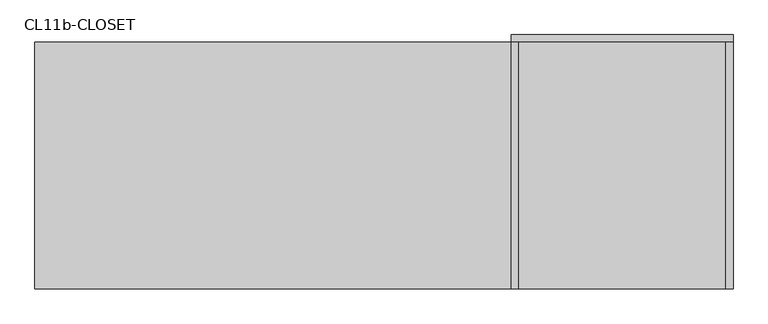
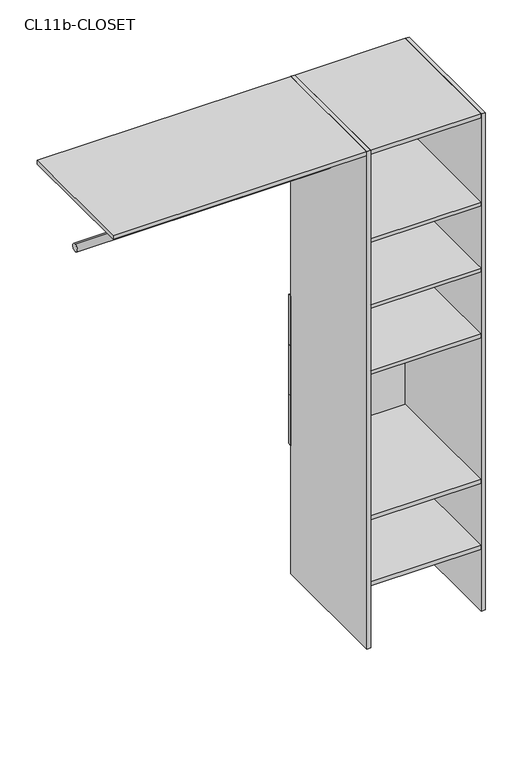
"""IFC4 building model written with IfcOpenShell, lengths in millimetres: furniture geometry, Closet 1estantes-1tubos_sin laterales : CL11b-CLOSET."""

import ifcopenshell
import ifcopenshell.guid

model = None  # the IFC model being written
_history = None  # IfcOwnerHistory: only IFC2X3 demands one
_inside = {}  # id of a spatial element -> (the spatial element, [elements in it])
_under = {}  # id of a project, library or spatial element -> (it, [spatial elements below it])
_declared = {}  # id of a project -> (the project, [libraries it declares])
_typed = {}  # id of a type object -> (the type object, [elements of that type])
_made_of = {}  # id of a material, layer set ... -> (it, [elements and type objects made of it])


def new_model(schema):
    """Start an empty IFC model of exactly this schema.

    Asked for "IFC4X3", IfcOpenShell would pick the latest addendum, in which some entities
    have other attributes; the version numbers below select the first issue.
    IFC2X3 requires an IfcOwnerHistory on every rooted entity: one is made here for all.
    """
    global model, _history
    if schema == "IFC4X3":
        model = ifcopenshell.file(schema_version=(4, 3, 0, 0))
    else:
        model = ifcopenshell.file(schema=schema)
    _inside.clear()
    _under.clear()
    _declared.clear()
    _typed.clear()
    _made_of.clear()
    _history = None
    if model.schema == "IFC2X3":
        org = make("IfcOrganization", Name="unknown")
        user = make(
            "IfcPersonAndOrganization",
            ThePerson=make("IfcPerson", FamilyName="unknown"),
            TheOrganization=org,
        )
        app = make(
            "IfcApplication",
            ApplicationDeveloper=org,
            Version="unknown",
            ApplicationFullName="unknown",
            ApplicationIdentifier="unknown",
        )
        _history = make(
            "IfcOwnerHistory",
            OwningUser=user,
            OwningApplication=app,
            ChangeAction="ADDED",
            CreationDate=0,
        )
    return model


def make(cls, **values):
    """One entity of the class cls with the attributes given. An attribute that is None is left unset."""
    return model.create_entity(
        cls, **{name: value for name, value in values.items() if value is not None}
    )


def rooted(cls, **values):
    """An entity with a GlobalId (a new one), such as an element, a storey or a relation."""
    return make(cls, GlobalId=ifcopenshell.guid.new(), OwnerHistory=_history, **values)


def si_unit(unit_type, name, prefix=None):
    """IfcSIUnit, for example si_unit("LENGTHUNIT", "METRE", prefix="MILLI")."""
    return make("IfcSIUnit", UnitType=unit_type, Prefix=prefix, Name=name)


def assignment(units):
    """IfcUnitAssignment: the units of a project."""
    return None if units is None else make("IfcUnitAssignment", Units=units)


def point(xyz):
    """IfcCartesianPoint."""
    return None if xyz is None else make("IfcCartesianPoint", Coordinates=xyz)


def direction(xyz):
    """IfcDirection."""
    return None if xyz is None else make("IfcDirection", DirectionRatios=xyz)


def frame(location, z_axis=None, x_axis=None):
    """IfcAxis2Placement3D, a coordinate frame: its origin and axes. An axis left out is left unset."""
    return make(
        "IfcAxis2Placement3D",
        Location=point(location),
        Axis=direction(z_axis),
        RefDirection=direction(x_axis),
    )


def frame_2d(location, x_axis=None):
    """IfcAxis2Placement2D, a coordinate frame in the plane: its origin and x axis."""
    return make(
        "IfcAxis2Placement2D", Location=point(location), RefDirection=direction(x_axis)
    )


def origin():
    """The frame at (0, 0, 0) with its axes left unset."""
    return frame((0.0, 0.0, 0.0))


def origin_with_axes():
    """The frame at (0, 0, 0) with the z axis (0, 0, 1) and the x axis (1, 0, 0) written out."""
    return frame((0.0, 0.0, 0.0), z_axis=(0.0, 0.0, 1.0), x_axis=(1.0, 0.0, 0.0))


def place(relative_to, where):
    """IfcLocalPlacement: puts the frame where relative to a parent placement (None: the world)."""
    return make(
        "IfcLocalPlacement", PlacementRelTo=relative_to, RelativePlacement=where
    )


def context(
    kind, dimensions, precision=None, world=None, true_north=None, identifier=None
):
    """IfcGeometricRepresentationContext, for example the 3D "Model" context."""
    return make(
        "IfcGeometricRepresentationContext",
        ContextIdentifier=identifier,
        ContextType=kind,
        CoordinateSpaceDimension=dimensions,
        Precision=precision,
        WorldCoordinateSystem=world,
        TrueNorth=true_north,
    )


def project(units=None, contexts=None):
    """IfcProject with its units and contexts."""
    return rooted(
        "IfcProject",
        Name="project",
        RepresentationContexts=contexts,
        UnitsInContext=assignment(units),
    )


def spatial(cls, under=None, at=None, **own):
    """A site, building, storey or space (cls), placed at a placement, below another one or the project."""
    s = rooted(cls, ObjectPlacement=at, **own)
    if under is not None:
        _under.setdefault(under.id(), (under, []))[1].append(s)
    return s


def polyline(points):
    """IfcPolyline through the points."""
    return make("IfcPolyline", Points=[point(p) for p in points])


def circle_curve(where, radius):
    """IfcCircle in the frame where."""
    return make("IfcCircle", Position=where, Radius=radius)


def trimmed(basis, trim1, trim2, sense, master):
    """IfcTrimmedCurve: the piece of a basis curve between two trims."""
    return make(
        "IfcTrimmedCurve",
        BasisCurve=basis,
        Trim1=trim1,
        Trim2=trim2,
        SenseAgreement=sense,
        MasterRepresentation=master,
    )


def segment(curve, same_sense, transition):
    """IfcCompositeCurveSegment."""
    return make(
        "IfcCompositeCurveSegment",
        Transition=transition,
        SameSense=same_sense,
        ParentCurve=curve,
    )


def composite_curve(segments, self_intersect=None):
    """IfcCompositeCurve: segments joined end to end."""
    return make("IfcCompositeCurve", Segments=segments, SelfIntersect=self_intersect)


def outline(outer, holes=None, kind="AREA"):
    """IfcArbitraryClosedProfileDef: a profile drawn as a closed curve; with holes, ...WithVoids."""
    if holes is None:
        return make("IfcArbitraryClosedProfileDef", ProfileType=kind, OuterCurve=outer)
    return make(
        "IfcArbitraryProfileDefWithVoids",
        ProfileType=kind,
        OuterCurve=outer,
        InnerCurves=holes,
    )


def extrude(swept, where, along, depth):
    """IfcExtrudedAreaSolid: the profile swept, set in the frame where, extruded along a direction by depth."""
    return make(
        "IfcExtrudedAreaSolid",
        SweptArea=swept,
        Position=where,
        ExtrudedDirection=direction(along),
        Depth=depth,
    )


def shape(context_of_items, identifier, shape_type, items):
    """IfcShapeRepresentation: the items that make up one representation, for example the "Body"."""
    return make(
        "IfcShapeRepresentation",
        ContextOfItems=context_of_items,
        RepresentationIdentifier=identifier,
        RepresentationType=shape_type,
        Items=items,
    )


def source(mapping_origin, context_of_items, identifier, shape_type, items):
    """IfcRepresentationMap: a shape defined once, which mapped items show again and again."""
    return make(
        "IfcRepresentationMap",
        MappingOrigin=mapping_origin,
        MappedRepresentation=shape(context_of_items, identifier, shape_type, items),
    )


def transform(
    local_origin,
    x_axis=None,
    y_axis=None,
    z_axis=None,
    scale=None,
    scale2=None,
    scale3=None,
    uniform=True,
):
    """IfcCartesianTransformationOperator3D, or its non-uniform kind. x_axis, y_axis, z_axis: its Axis1, 2, 3."""
    if uniform:
        return make(
            "IfcCartesianTransformationOperator3D",
            Axis1=direction(x_axis),
            Axis2=direction(y_axis),
            LocalOrigin=point(local_origin),
            Scale=scale,
            Axis3=direction(z_axis),
        )
    return make(
        "IfcCartesianTransformationOperator3DnonUniform",
        Axis1=direction(x_axis),
        Axis2=direction(y_axis),
        LocalOrigin=point(local_origin),
        Scale=scale,
        Axis3=direction(z_axis),
        Scale2=scale2,
        Scale3=scale3,
    )


def mapped(mapping_source, mapping_target):
    """IfcMappedItem: shows the shape of a source again, moved by a transform."""
    return make(
        "IfcMappedItem", MappingSource=mapping_source, MappingTarget=mapping_target
    )


def made_of(thing, what):
    """Note that an element or type object is made of a material, layer set ...; save() writes the relation."""
    if what is not None:
        _made_of.setdefault(what.id(), (what, []))[1].append(thing)
    return thing


def element(
    cls,
    number,
    at=None,
    inside=None,
    cuts=None,
    type_object=None,
    material=None,
    context=None,
    identifier="Body",
    shape_type=None,
    held_by="IfcProductDefinitionShape",
    body=None,
    shapes=None,
    **own,
):
    """One element of the class cls, such as IfcWall. Its Tag is "e" and its number.

    at: its placement. inside: the storey or other place that contains it. cuts: it is an
    opening in that element (IfcRelVoidsElement). A single representation is given by context,
    identifier, shape_type and body (its items); several are given by shapes. held_by: the class
    of the entity that holds the representations. save() writes the other relations.
    """
    e = rooted(cls, Tag="e%d" % number, ObjectPlacement=at, **own)
    if body is not None:
        shapes = [shape(context, identifier, shape_type, body)]
    if shapes is not None:
        e.Representation = make(held_by, Representations=shapes)
    if inside is not None:
        _inside.setdefault(inside.id(), (inside, []))[1].append(e)
    if cuts is not None:
        rooted(
            "IfcRelVoidsElement", RelatingBuildingElement=cuts, RelatedOpeningElement=e
        )
    if type_object is not None:
        _typed.setdefault(type_object.id(), (type_object, []))[1].append(e)
    return made_of(e, material)


def aggregate(whole, parts):
    """IfcRelAggregates: a whole, such as a stair, and the parts it consists of."""
    return rooted("IfcRelAggregates", RelatingObject=whole, RelatedObjects=parts)


def save(model, path):
    """Write the relations noted so far, then the file.

    IfcRelAggregates (storeys below a building ...), IfcRelContainedInSpatialStructure (elements
    in a storey), IfcRelDefinesByType, IfcRelAssociatesMaterial and IfcRelDeclares: one each for
    every whole, place, type object, material and project.
    """
    for whole, parts in _under.values():
        aggregate(whole, parts)
    for where, things in _inside.values():
        rooted(
            "IfcRelContainedInSpatialStructure",
            RelatedElements=things,
            RelatingStructure=where,
        )
    for kind, things in _typed.values():
        rooted("IfcRelDefinesByType", RelatedObjects=things, RelatingType=kind)
    for what, things in _made_of.values():
        rooted("IfcRelAssociatesMaterial", RelatedObjects=things, RelatingMaterial=what)
    for by, libraries in _declared.values():
        rooted("IfcRelDeclares", RelatingContext=by, RelatedDefinitions=libraries)
    model.write(path)


def cl11b_closet_23228832(model_context):
    return source(origin(), model_context, "Body", "SweptSolid", [
        extrude(outline(polyline([(225.0, -100.0), (225.0, -600.0), (210.0, -600.0), (210.0, -100.0), (225.0, -100.0)])), origin_with_axes(), (0.0, 0.0, 1.0), 2000.0),
        extrude(outline(polyline([(-210.0, -100.0), (-210.0, -600.0), (-225.0, -600.0), (-225.0, -100.0), (-210.0, -100.0)])), origin_with_axes(), (0.0, 0.0, 1.0), 2000.0),
        extrude(outline(polyline([(225.0, -100.0), (-225.0, -100.0), (-225.0, -85.0), (225.0, -85.0), (225.0, -100.0)])), frame((0.0, 0.0, 915.0), z_axis=(0.0, 0.0, 1.0), x_axis=(1.0, 0.0, 0.0)), (0.0, 0.0, 1.0), 200.0),
        extrude(outline(polyline([(225.0, -100.0), (-225.0, -100.0), (-225.0, -85.0), (225.0, -85.0), (225.0, -100.0)])), frame((0.0, 0.0, 715.0), z_axis=(0.0, 0.0, 1.0), x_axis=(1.0, 0.0, 0.0)), (0.0, 0.0, 1.0), 200.0),
        extrude(outline(polyline([(225.0, -100.0), (-225.0, -100.0), (-225.0, -85.0), (225.0, -85.0), (225.0, -100.0)])), frame((0.0, 0.0, 515.0), z_axis=(0.0, 0.0, 1.0), x_axis=(1.0, 0.0, 0.0)), (0.0, 0.0, 1.0), 200.0),
        extrude(outline(polyline([(210.0, -100.0), (210.0, -600.0), (-210.0, -600.0), (-210.0, -100.0), (210.0, -100.0)])), frame((0.0, 0.0, 1100.0), z_axis=(0.0, 0.0, 1.0), x_axis=(1.0, 0.0, 0.0)), (0.0, 0.0, 1.0), 15.0),
        extrude(outline(composite_curve([segment(trimmed(circle_curve(frame_2d((-350.0, 1800.0)), 15.0), [point((-350.0, 1815.0))], [point((-350.0, 1785.0))], False, "CARTESIAN"), True, "CONTINUOUS"), segment(trimmed(circle_curve(frame_2d((-350.0, 1800.0)), 15.0), [point((-350.0, 1785.0))], [point((-350.0, 1815.0))], False, "CARTESIAN"), True, "CONTINUOUS")], self_intersect=False)), frame((-1190.0, 0.0, 0.0), z_axis=(1.0, 0.0, 0.0), x_axis=(0.0, 1.0, 0.0)), (0.0, 0.0, 1.0), 965.0),
        extrude(outline(composite_curve([segment(trimmed(circle_curve(frame_2d((-350.0, 1800.0)), 15.0), [point((-350.0, 1815.0))], [point((-350.0, 1785.0))], False, "CARTESIAN"), True, "CONTINUOUS"), segment(trimmed(circle_curve(frame_2d((-350.0, 1800.0)), 15.0), [point((-350.0, 1785.0))], [point((-350.0, 1815.0))], False, "CARTESIAN"), True, "CONTINUOUS")], self_intersect=False)), frame((-1190.0, 0.0, 0.0), z_axis=(1.0, 0.0, 0.0), x_axis=(0.0, 1.0, 0.0)), (0.0, 0.0, 1.0), 965.0),
        extrude(outline(polyline([(210.0, -100.0), (210.0, -600.0), (-210.0, -600.0), (-210.0, -100.0), (210.0, -100.0)])), frame((0.0, 0.0, 250.0), z_axis=(0.0, 0.0, 1.0), x_axis=(1.0, 0.0, 0.0)), (0.0, 0.0, 1.0), 15.0),
        extrude(outline(polyline([(210.0, -100.0), (210.0, -600.0), (-210.0, -600.0), (-210.0, -100.0), (210.0, -100.0)])), frame((0.0, 0.0, 515.0), z_axis=(0.0, 0.0, 1.0), x_axis=(1.0, 0.0, 0.0)), (0.0, 0.0, 1.0), 15.0),
        extrude(outline(polyline([(210.0, -100.0), (210.0, -600.0), (-210.0, -600.0), (-210.0, -100.0), (210.0, -100.0)])), frame((0.0, 0.0, 1365.0), z_axis=(0.0, 0.0, 1.0), x_axis=(1.0, 0.0, 0.0)), (0.0, 0.0, 1.0), 15.0),
        extrude(outline(polyline([(210.0, -100.0), (210.0, -600.0), (-210.0, -600.0), (-210.0, -100.0), (210.0, -100.0)])), frame((0.0, 0.0, 1630.0), z_axis=(0.0, 0.0, 1.0), x_axis=(1.0, 0.0, 0.0)), (0.0, 0.0, 1.0), 15.0),
        extrude(outline(polyline([(-210.0, -100.0), (-210.0, -600.0), (-1190.0, -600.0), (-1190.0, -100.0), (-210.0, -100.0)])), frame((0.0, 0.0, 1985.0), z_axis=(0.0, 0.0, 1.0), x_axis=(1.0, 0.0, 0.0)), (0.0, 0.0, 1.0), 15.0),
        extrude(outline(polyline([(210.0, -100.0), (210.0, -600.0), (-210.0, -600.0), (-210.0, -100.0), (210.0, -100.0)])), frame((0.0, 0.0, 1985.0), z_axis=(0.0, 0.0, 1.0), x_axis=(1.0, 0.0, 0.0)), (0.0, 0.0, 1.0), 15.0),
    ])


if __name__ == "__main__":
    model = new_model("IFC4")
    model_context = context("Model", 3, world=origin())
    ifc_project = project(units=[si_unit("LENGTHUNIT", "METRE", prefix="MILLI")], contexts=[model_context])
    site = spatial("IfcSite", under=ifc_project)
    building = spatial("IfcBuilding", under=site)
    placement = place(None, origin())
    cl11b_closet_shape = cl11b_closet_23228832(model_context)
    element("IfcFurniture", 1, ObjectType="Closet 1estantes-1tubos_sin laterales : CL11b-CLOSET", at=placement, inside=building, context=model_context, shape_type="MappedRepresentation", body=[
        mapped(cl11b_closet_shape, transform((0.0, 0.0, 0.0), x_axis=(1.0, 0.0, 0.0), y_axis=(0.0, 1.0, 0.0), z_axis=(0.0, 0.0, 1.0))),
    ])
    save(model, "model.ifc")
